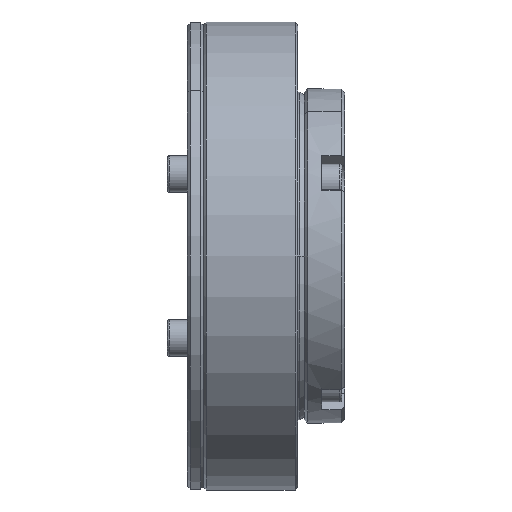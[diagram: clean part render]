
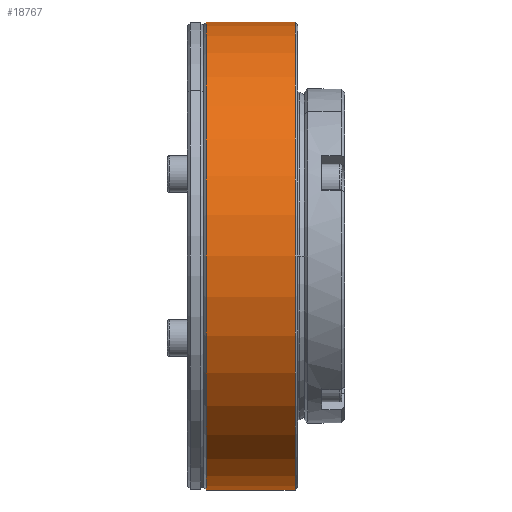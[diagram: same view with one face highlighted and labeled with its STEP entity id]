
A CAD part, front view. The second image highlights one B-rep face of the part: STEP entity #18767.
In plain terms, the highlighted cylindrical face has radius 35 mm (diameter 70 mm), a partial arc.
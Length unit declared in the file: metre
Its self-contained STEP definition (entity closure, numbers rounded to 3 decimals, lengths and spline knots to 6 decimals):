
#30 = DIRECTION ( 'NONE',  ( -1., 0., 0. ) ) ;
#261 = CARTESIAN_POINT ( 'NONE',  ( 0.0028, 0., 0.035 ) ) ;
#565 = EDGE_LOOP ( 'NONE', ( #7084, #8750, #26661, #6603 ) ) ;
#998 = EDGE_CURVE ( 'NONE', #20279, #25922, #17229, .T. ) ;
#1052 = LINE ( 'NONE', #19226, #1386 ) ;
#1386 = VECTOR ( 'NONE', #25550, 1. ) ;
#1525 = DIRECTION ( 'NONE',  ( 0., 0., 1. ) ) ;
#2784 = EDGE_CURVE ( 'NONE', #23401, #13867, #1052, .T. ) ;
#4768 = DIRECTION ( 'NONE',  ( 0., 0., 1. ) ) ;
#5057 = DIRECTION ( 'NONE',  ( -1., 0., 0. ) ) ;
#6603 = ORIENTED_EDGE ( 'NONE', *, *, #27545, .T. ) ;
#6629 = CIRCLE ( 'NONE', #15113, 0.035 ) ;
#6880 = CARTESIAN_POINT ( 'NONE',  ( -0.005642, 0., 0. ) ) ;
#7084 = ORIENTED_EDGE ( 'NONE', *, *, #2784, .F. ) ;
#8750 = ORIENTED_EDGE ( 'NONE', *, *, #25366, .T. ) ;
#9273 = AXIS2_PLACEMENT_3D ( 'NONE', #6880, #5057, #4768 ) ;
#13867 = VERTEX_POINT ( 'NONE', #27707 ) ;
#15113 = AXIS2_PLACEMENT_3D ( 'NONE', #16247, #27288, #1525 ) ;
#15683 = FACE_OUTER_BOUND ( 'NONE', #565, .T. ) ;
#16247 = CARTESIAN_POINT ( 'NONE',  ( 0.0028, 0., 0. ) ) ;
#17229 = LINE ( 'NONE', #25514, #22320 ) ;
#18767 = ADVANCED_FACE ( 'NONE', ( #15683 ), #24239, .T. ) ;
#19226 = CARTESIAN_POINT ( 'NONE',  ( -0.005642, 0., -0.035 ) ) ;
#19365 = CARTESIAN_POINT ( 'NONE',  ( 0.0161, 0., 0. ) ) ;
#20279 = VERTEX_POINT ( 'NONE', #26397 ) ;
#21977 = CARTESIAN_POINT ( 'NONE',  ( 0.0161, 0., -0.035 ) ) ;
#22320 = VECTOR ( 'NONE', #23824, 1. ) ;
#22334 = AXIS2_PLACEMENT_3D ( 'NONE', #19365, #30, #25539 ) ;
#23401 = VERTEX_POINT ( 'NONE', #21977 ) ;
#23824 = DIRECTION ( 'NONE',  ( -1., 0., 0. ) ) ;
#24239 = CYLINDRICAL_SURFACE ( 'NONE', #9273, 0.035 ) ;
#25366 = EDGE_CURVE ( 'NONE', #23401, #20279, #27679, .T. ) ;
#25514 = CARTESIAN_POINT ( 'NONE',  ( -0.005642, 0., 0.035 ) ) ;
#25539 = DIRECTION ( 'NONE',  ( 0., 0., 1. ) ) ;
#25550 = DIRECTION ( 'NONE',  ( -1., 0., 0. ) ) ;
#25922 = VERTEX_POINT ( 'NONE', #261 ) ;
#26397 = CARTESIAN_POINT ( 'NONE',  ( 0.0161, 0., 0.035 ) ) ;
#26661 = ORIENTED_EDGE ( 'NONE', *, *, #998, .T. ) ;
#27288 = DIRECTION ( 'NONE',  ( 1., 0., 0. ) ) ;
#27545 = EDGE_CURVE ( 'NONE', #25922, #13867, #6629, .T. ) ;
#27679 = CIRCLE ( 'NONE', #22334, 0.035 ) ;
#27707 = CARTESIAN_POINT ( 'NONE',  ( 0.0028, 0., -0.035 ) ) ;
